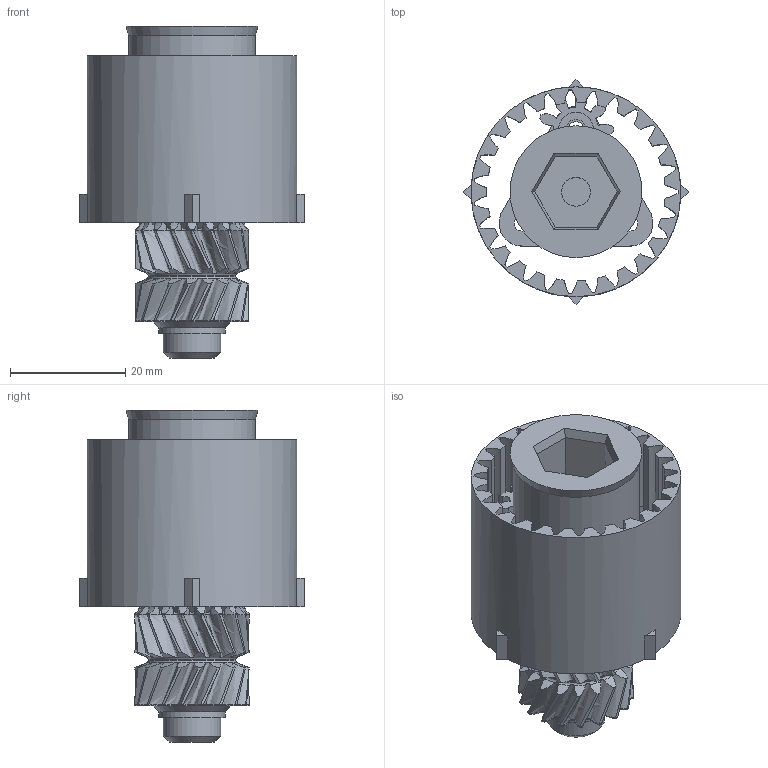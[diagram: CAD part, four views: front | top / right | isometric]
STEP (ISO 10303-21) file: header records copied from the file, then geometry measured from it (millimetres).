
FILE_DESCRIPTION(('FreeCAD Model'),'2;1');
FILE_NAME('Open CASCADE Shape Model','2025-12-16T21:01:29',('Author'),( ''),'Open CASCADE STEP processor 7.8','FreeCAD','Unknown');
FILE_SCHEMA(('AUTOMOTIVE_DESIGN { 1 0 10303 214 1 1 1 1 }'));
Length unit declared in the file: millimetre
Products named in the file (8): Unnamed1; planet-gear; ring-gear; sun-gear; crown1; crown2; planet-spacer; planet-gear-wo-bearings
Assembly tree (7 placements, depth 2):
  Unnamed1
    planet-gear
    ring-gear
    sun-gear
    crown1
    crown2
    planet-spacer
    planet-gear-wo-bearings
Bounding box: 39 x 39 x 57.6 mm (x, y, z)
Volume: 17385.1 mm3; surface area: 18214.5 mm2
Topology: 7 solids, 7 shells, 968 faces, 2563 edges, 1628 vertices
Faces by surface type: extrusion 568, bspline 162, cylinder 98, plane 63, cone 57, torus 20
Full cylindrical faces by diameter (mm): 2.8 x6, 3.5 x2, 5 x2, 6 x4, 9.95 x1, 11.5 x1, 15.25 x1, 18 x1, 22 x1, 36.4 x1
Entity records: 48135 total; most frequent: CARTESIAN_POINT 27215, ORIENTED_EDGE 5126, EDGE_CURVE 2563, DIRECTION 2419, B_SPLINE_CURVE_WITH_KNOTS 2000, VERTEX_POINT 1628, VECTOR 1467, FACE_BOUND 1011
